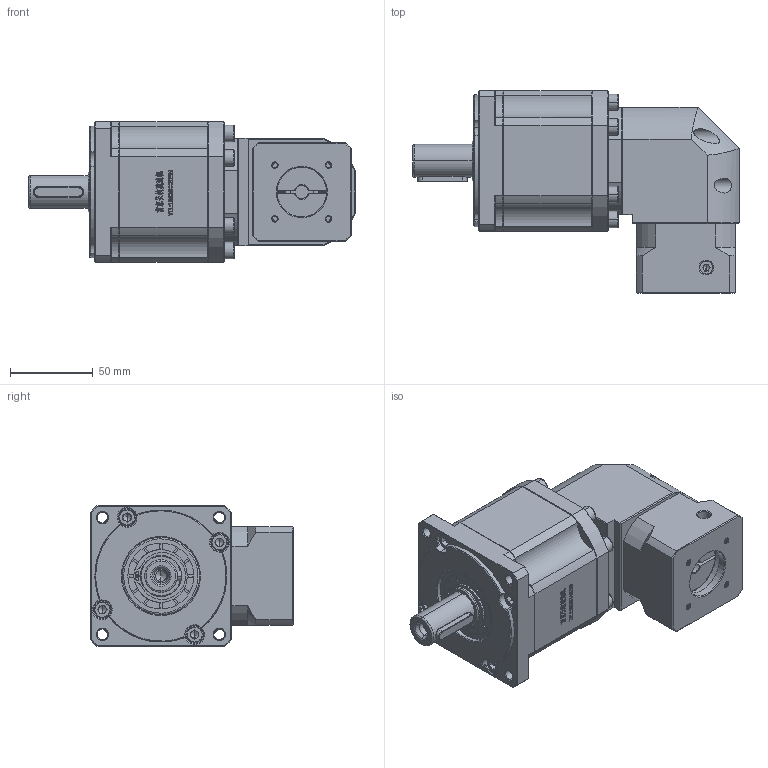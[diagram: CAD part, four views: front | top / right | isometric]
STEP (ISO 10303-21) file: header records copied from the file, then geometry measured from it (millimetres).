
FILE_DESCRIPTION (( 'STEP AP214' ), '1' );
FILE_NAME ('ZBR90-D20-L3-8-30-46-M4.step', '2022-05-07T15:18:44', ( '' ), ( 'Microsoft' ), 'SwSTEP 2.0', 'SolidWorks 2016', '' );
FILE_SCHEMA (( 'AUTOMOTIVE_DESIGN' ));
Length unit declared in the file: millimetre
Products named in the file (1): ZBR90-D20-L3-8-30-46-M4
Bounding box: 198 x 122.7 x 85 mm (x, y, z)
Volume: 928439.6 mm3; surface area: 106982.5 mm2
Topology: 5 solids, 5 shells, 3084 faces, 8298 edges, 5363 vertices
Faces by surface type: plane 1596, bspline 672, cylinder 429, cone 367, torus 20
Entity records: 184786 total; most frequent: CARTESIAN_POINT 78623, ORIENTED_EDGE 16520, DIRECTION 12491, EDGE_CURVE 8260, VERTEX_POINT 5363, LINE 5329, VECTOR 5329, AXIS2_PLACEMENT_3D 3581
